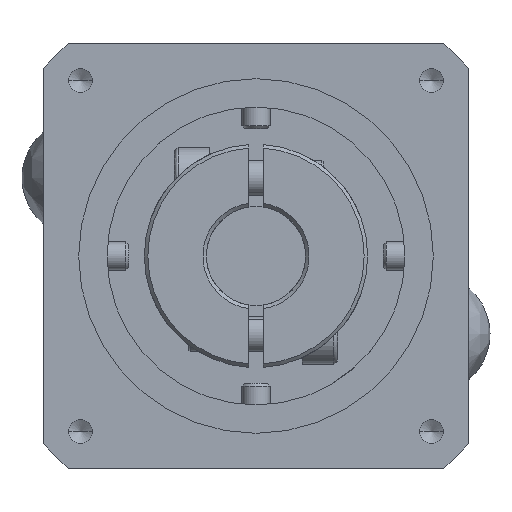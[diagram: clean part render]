
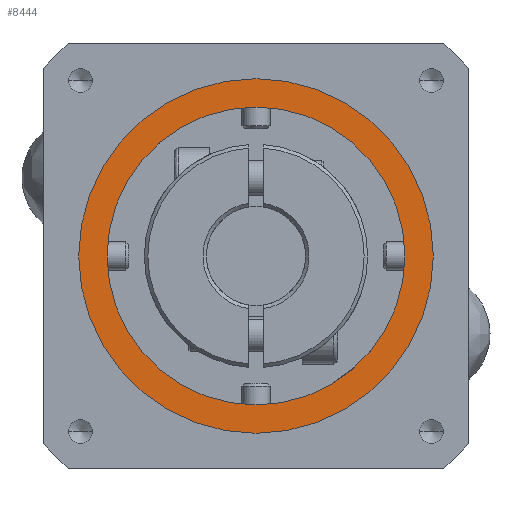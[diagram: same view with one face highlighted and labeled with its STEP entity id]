
A CAD part, left-side view. The second image highlights one B-rep face of the part: STEP entity #8444.
In plain terms, the highlighted planar face has unit normal (-1, 0, 0) as drawn and (0, 0, 1) by its records, which use the part's own axes.
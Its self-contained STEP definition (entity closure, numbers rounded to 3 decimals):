
#77 = ORIENTED_EDGE ( 'NONE', *, *, #7427, .T. ) ;
#208 = EDGE_CURVE ( 'NONE', #7655, #3105, #2353, .T. ) ;
#237 = CARTESIAN_POINT ( 'NONE',  ( 21., 0., 26.5 ) ) ;
#543 = DIRECTION ( 'NONE',  ( 0., 0., 1. ) ) ;
#617 = ORIENTED_EDGE ( 'NONE', *, *, #2446, .T. ) ;
#637 = CIRCLE ( 'NONE', #4693, 25. ) ;
#673 = AXIS2_PLACEMENT_3D ( 'NONE', #1311, #8260, #739 ) ;
#739 = DIRECTION ( 'NONE',  ( 1., 0., 0. ) ) ;
#832 = DIRECTION ( 'NONE',  ( 1., 0., 0. ) ) ;
#1149 = CIRCLE ( 'NONE', #4449, 21. ) ;
#1311 = CARTESIAN_POINT ( 'NONE',  ( 0., 0., 26.5 ) ) ;
#1834 = FACE_OUTER_BOUND ( 'NONE', #8876, .T. ) ;
#2353 = CIRCLE ( 'NONE', #673, 21. ) ;
#2446 = EDGE_CURVE ( 'NONE', #3105, #7655, #1149, .T. ) ;
#2650 = CIRCLE ( 'NONE', #5642, 25. ) ;
#2676 = ORIENTED_EDGE ( 'NONE', *, *, #2683, .T. ) ;
#2683 = EDGE_CURVE ( 'NONE', #4879, #2843, #2650, .T. ) ;
#2843 = VERTEX_POINT ( 'NONE', #3142 ) ;
#2927 = DIRECTION ( 'NONE',  ( 0., 0., 1. ) ) ;
#3003 = CARTESIAN_POINT ( 'NONE',  ( 0., 0., 26.5 ) ) ;
#3105 = VERTEX_POINT ( 'NONE', #237 ) ;
#3142 = CARTESIAN_POINT ( 'NONE',  ( 25., 0., 26.5 ) ) ;
#3294 = DIRECTION ( 'NONE',  ( 0., 0., -1. ) ) ;
#3678 = DIRECTION ( 'NONE',  ( 1., 0., 0. ) ) ;
#4033 = DIRECTION ( 'NONE',  ( 1., 0., 0. ) ) ;
#4333 = CARTESIAN_POINT ( 'NONE',  ( -21., 0., 26.5 ) ) ;
#4449 = AXIS2_PLACEMENT_3D ( 'NONE', #7398, #3294, #4033 ) ;
#4693 = AXIS2_PLACEMENT_3D ( 'NONE', #8822, #543, #4730 ) ;
#4730 = DIRECTION ( 'NONE',  ( 1., 0., 0. ) ) ;
#4879 = VERTEX_POINT ( 'NONE', #6133 ) ;
#4938 = DIRECTION ( 'NONE',  ( 0., 0., 1. ) ) ;
#5019 = CARTESIAN_POINT ( 'NONE',  ( 0., 0., 26.5 ) ) ;
#5047 = FACE_BOUND ( 'NONE', #6207, .T. ) ;
#5642 = AXIS2_PLACEMENT_3D ( 'NONE', #5019, #2927, #3678 ) ;
#6133 = CARTESIAN_POINT ( 'NONE',  ( -25., 0., 26.5 ) ) ;
#6177 = AXIS2_PLACEMENT_3D ( 'NONE', #3003, #4938, #832 ) ;
#6207 = EDGE_LOOP ( 'NONE', ( #617, #7883 ) ) ;
#6977 = PLANE ( 'NONE',  #6177 ) ;
#7398 = CARTESIAN_POINT ( 'NONE',  ( 0., 0., 26.5 ) ) ;
#7427 = EDGE_CURVE ( 'NONE', #2843, #4879, #637, .T. ) ;
#7655 = VERTEX_POINT ( 'NONE', #4333 ) ;
#7883 = ORIENTED_EDGE ( 'NONE', *, *, #208, .T. ) ;
#8260 = DIRECTION ( 'NONE',  ( 0., 0., -1. ) ) ;
#8444 = ADVANCED_FACE ( 'NONE', ( #1834, #5047 ), #6977, .T. ) ;
#8822 = CARTESIAN_POINT ( 'NONE',  ( 0., 0., 26.5 ) ) ;
#8876 = EDGE_LOOP ( 'NONE', ( #77, #2676 ) ) ;
